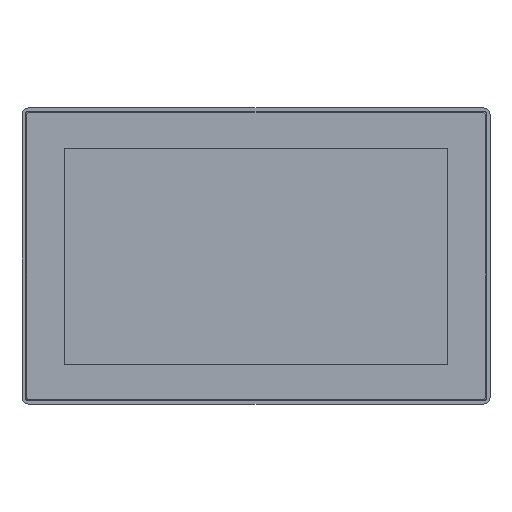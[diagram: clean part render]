
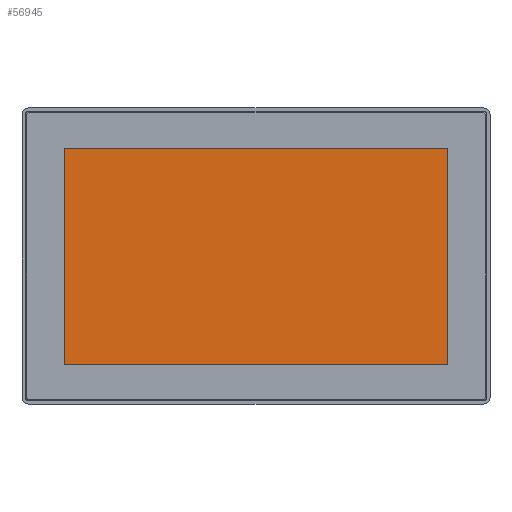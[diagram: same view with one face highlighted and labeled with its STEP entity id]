
A CAD part, top view. The second image highlights one B-rep face of the part: STEP entity #56945.
In plain terms, the highlighted planar face has unit normal (0, 0, 1).
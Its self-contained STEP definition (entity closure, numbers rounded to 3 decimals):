
#4603 = CARTESIAN_POINT ( 'NONE',  ( -172.62, 97.27, 8.5 ) ) ;
#5549 = DIRECTION ( 'NONE',  ( 0., 1., 0. ) ) ;
#9753 = VERTEX_POINT ( 'NONE', #137336 ) ;
#14048 = ORIENTED_EDGE ( 'NONE', *, *, #212420, .F. ) ;
#17425 = DIRECTION ( 'NONE',  ( 1., 0., 0. ) ) ;
#28814 = CARTESIAN_POINT ( 'NONE',  ( 172.75, -97.5, 8.5 ) ) ;
#29600 = CARTESIAN_POINT ( 'NONE',  ( 172.75, 97.27, 8.5 ) ) ;
#30184 = CARTESIAN_POINT ( 'NONE',  ( 172.75, 97.27, 8.5 ) ) ;
#42601 = VECTOR ( 'NONE', #185179, 1000. ) ;
#49052 = CARTESIAN_POINT ( 'NONE',  ( 172.75, 97.27, 8.5 ) ) ;
#56945 = ADVANCED_FACE ( 'NONE', ( #241142 ), #130628, .T. ) ;
#60392 = AXIS2_PLACEMENT_3D ( 'NONE', #243913, #153529, #17425 ) ;
#75187 = VECTOR ( 'NONE', #165709, 1000. ) ;
#76241 = EDGE_LOOP ( 'NONE', ( #291425, #14048, #165235, #233479 ) ) ;
#85944 = VERTEX_POINT ( 'NONE', #28814 ) ;
#89202 = DIRECTION ( 'NONE',  ( -1., 0., 0. ) ) ;
#102983 = LINE ( 'NONE', #49052, #42601 ) ;
#130628 = PLANE ( 'NONE',  #60392 ) ;
#135567 = LINE ( 'NONE', #29600, #75187 ) ;
#137336 = CARTESIAN_POINT ( 'NONE',  ( -172.62, 97.27, 8.5 ) ) ;
#150106 = LINE ( 'NONE', #248098, #263789 ) ;
#153529 = DIRECTION ( 'NONE',  ( 0., 0., 1. ) ) ;
#165235 = ORIENTED_EDGE ( 'NONE', *, *, #269175, .F. ) ;
#165709 = DIRECTION ( 'NONE',  ( 0., -1., 0. ) ) ;
#185179 = DIRECTION ( 'NONE',  ( 1., 0., 0. ) ) ;
#212420 = EDGE_CURVE ( 'NONE', #263727, #85944, #135567, .T. ) ;
#221155 = VERTEX_POINT ( 'NONE', #233133 ) ;
#224541 = VECTOR ( 'NONE', #5549, 1000. ) ;
#233133 = CARTESIAN_POINT ( 'NONE',  ( -172.62, -97.5, 8.5 ) ) ;
#233479 = ORIENTED_EDGE ( 'NONE', *, *, #257923, .F. ) ;
#241142 = FACE_OUTER_BOUND ( 'NONE', #76241, .T. ) ;
#243913 = CARTESIAN_POINT ( 'NONE',  ( -207.7, -130.2, 8.5 ) ) ;
#248098 = CARTESIAN_POINT ( 'NONE',  ( 172.75, -97.5, 8.5 ) ) ;
#257923 = EDGE_CURVE ( 'NONE', #221155, #9753, #284849, .T. ) ;
#263727 = VERTEX_POINT ( 'NONE', #30184 ) ;
#263789 = VECTOR ( 'NONE', #89202, 1000. ) ;
#269175 = EDGE_CURVE ( 'NONE', #9753, #263727, #102983, .T. ) ;
#274463 = EDGE_CURVE ( 'NONE', #85944, #221155, #150106, .T. ) ;
#284849 = LINE ( 'NONE', #4603, #224541 ) ;
#291425 = ORIENTED_EDGE ( 'NONE', *, *, #274463, .F. ) ;
